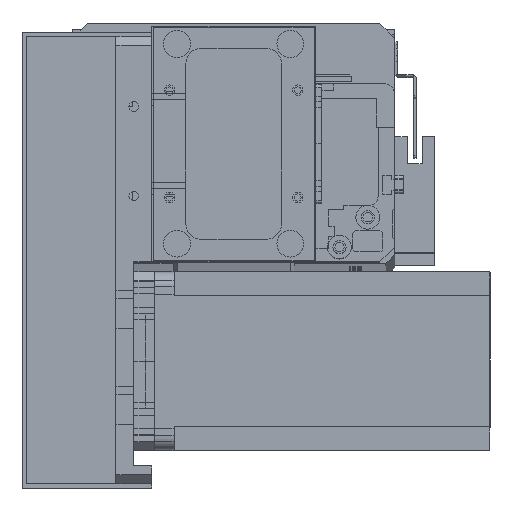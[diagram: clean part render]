
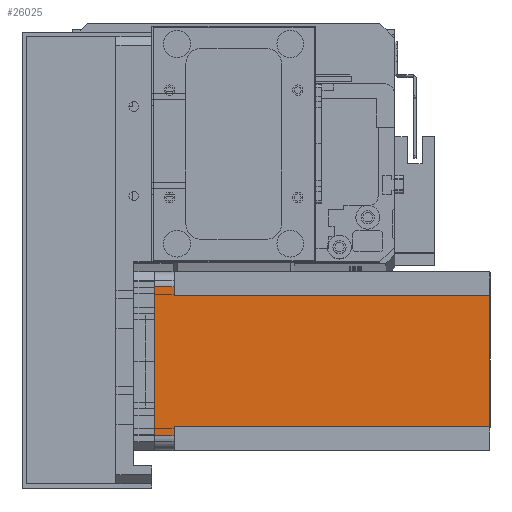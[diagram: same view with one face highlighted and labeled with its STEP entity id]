
A CAD part, top view. The second image highlights one B-rep face of the part: STEP entity #26025.
In plain terms, the highlighted planar face has unit normal (0, 0, 1) as drawn and (0, 1, 0) by its records, which use the part's own axes.
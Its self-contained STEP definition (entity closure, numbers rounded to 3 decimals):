
#463 = LINE ( 'NONE', #33951, #32881 ) ;
#1428 = CARTESIAN_POINT ( 'NONE',  ( 52., 60., -112.5 ) ) ;
#2560 = DIRECTION ( 'NONE',  ( 0., 0., 1. ) ) ;
#2877 = VECTOR ( 'NONE', #5716, 1000. ) ;
#3066 = VERTEX_POINT ( 'NONE', #6250 ) ;
#3349 = DIRECTION ( 'NONE',  ( -1., 0., 0. ) ) ;
#3710 = CARTESIAN_POINT ( 'NONE',  ( 5., 60., -6.5 ) ) ;
#3999 = EDGE_LOOP ( 'NONE', ( #27438, #27697, #8176, #27181, #20939, #6668, #8653, #16563 ) ) ;
#4856 = CARTESIAN_POINT ( 'NONE',  ( 5., 60., 0. ) ) ;
#5147 = LINE ( 'NONE', #10836, #12141 ) ;
#5252 = LINE ( 'NONE', #14703, #25340 ) ;
#5697 = DIRECTION ( 'NONE',  ( 0., 0., -1. ) ) ;
#5716 = DIRECTION ( 'NONE',  ( -1., 0., 0. ) ) ;
#5776 = AXIS2_PLACEMENT_3D ( 'NONE', #7016, #27892, #32819 ) ;
#6250 = CARTESIAN_POINT ( 'NONE',  ( 55., 60., -6.5 ) ) ;
#6503 = FACE_OUTER_BOUND ( 'NONE', #3999, .T. ) ;
#6668 = ORIENTED_EDGE ( 'NONE', *, *, #18622, .F. ) ;
#7016 = CARTESIAN_POINT ( 'NONE',  ( 0., 60., -112.5 ) ) ;
#8176 = ORIENTED_EDGE ( 'NONE', *, *, #12555, .F. ) ;
#8653 = ORIENTED_EDGE ( 'NONE', *, *, #22858, .T. ) ;
#8908 = VERTEX_POINT ( 'NONE', #3710 ) ;
#9446 = LINE ( 'NONE', #25682, #15586 ) ;
#10350 = EDGE_CURVE ( 'NONE', #27957, #31415, #23805, .T. ) ;
#10578 = LINE ( 'NONE', #33589, #15080 ) ;
#10836 = CARTESIAN_POINT ( 'NONE',  ( 8., 60., -112.5 ) ) ;
#11168 = CARTESIAN_POINT ( 'NONE',  ( 0., 60., -112.5 ) ) ;
#12141 = VECTOR ( 'NONE', #5697, 1000. ) ;
#12555 = EDGE_CURVE ( 'NONE', #27705, #3066, #33019, .T. ) ;
#12899 = CARTESIAN_POINT ( 'NONE',  ( 8., 60., -6.5 ) ) ;
#13597 = CARTESIAN_POINT ( 'NONE',  ( 0., 60., 0. ) ) ;
#14703 = CARTESIAN_POINT ( 'NONE',  ( 55., 60., -112.5 ) ) ;
#15080 = VECTOR ( 'NONE', #20522, 1000. ) ;
#15374 = CARTESIAN_POINT ( 'NONE',  ( 52., 60., -6.5 ) ) ;
#15586 = VECTOR ( 'NONE', #28323, 1000. ) ;
#16182 = EDGE_CURVE ( 'NONE', #19891, #18859, #25406, .T. ) ;
#16563 = ORIENTED_EDGE ( 'NONE', *, *, #21779, .T. ) ;
#17121 = EDGE_CURVE ( 'NONE', #27957, #3066, #5252, .T. ) ;
#17239 = EDGE_CURVE ( 'NONE', #19891, #27705, #10578, .T. ) ;
#17352 = DIRECTION ( 'NONE',  ( 0., 0., -1. ) ) ;
#18425 = VECTOR ( 'NONE', #3349, 1000. ) ;
#18622 = EDGE_CURVE ( 'NONE', #24940, #18859, #5147, .T. ) ;
#18859 = VERTEX_POINT ( 'NONE', #27648 ) ;
#19081 = VECTOR ( 'NONE', #23173, 1000. ) ;
#19891 = VERTEX_POINT ( 'NONE', #1428 ) ;
#20522 = DIRECTION ( 'NONE',  ( 0., 0., 1. ) ) ;
#20939 = ORIENTED_EDGE ( 'NONE', *, *, #16182, .T. ) ;
#21779 = EDGE_CURVE ( 'NONE', #8908, #31415, #463, .T. ) ;
#22695 = PLANE ( 'NONE',  #5776 ) ;
#22858 = EDGE_CURVE ( 'NONE', #24940, #8908, #9446, .T. ) ;
#23173 = DIRECTION ( 'NONE',  ( 1., 0., 0. ) ) ;
#23363 = CARTESIAN_POINT ( 'NONE',  ( 55., 60., 0. ) ) ;
#23805 = LINE ( 'NONE', #13597, #2877 ) ;
#24940 = VERTEX_POINT ( 'NONE', #12899 ) ;
#25340 = VECTOR ( 'NONE', #17352, 1000. ) ;
#25406 = LINE ( 'NONE', #11168, #18425 ) ;
#25682 = CARTESIAN_POINT ( 'NONE',  ( 8., 60., -6.5 ) ) ;
#26025 = ADVANCED_FACE ( 'NONE', ( #6503 ), #22695, .T. ) ;
#27181 = ORIENTED_EDGE ( 'NONE', *, *, #17239, .F. ) ;
#27438 = ORIENTED_EDGE ( 'NONE', *, *, #10350, .F. ) ;
#27648 = CARTESIAN_POINT ( 'NONE',  ( 8., 60., -112.5 ) ) ;
#27697 = ORIENTED_EDGE ( 'NONE', *, *, #17121, .T. ) ;
#27705 = VERTEX_POINT ( 'NONE', #32753 ) ;
#27892 = DIRECTION ( 'NONE',  ( 0., 1., 0. ) ) ;
#27957 = VERTEX_POINT ( 'NONE', #23363 ) ;
#28323 = DIRECTION ( 'NONE',  ( -1., 0., 0. ) ) ;
#31415 = VERTEX_POINT ( 'NONE', #4856 ) ;
#32753 = CARTESIAN_POINT ( 'NONE',  ( 52., 60., -6.5 ) ) ;
#32819 = DIRECTION ( 'NONE',  ( 0., 0., 1. ) ) ;
#32881 = VECTOR ( 'NONE', #2560, 1000. ) ;
#33019 = LINE ( 'NONE', #15374, #19081 ) ;
#33589 = CARTESIAN_POINT ( 'NONE',  ( 52., 60., -112.5 ) ) ;
#33951 = CARTESIAN_POINT ( 'NONE',  ( 5., 60., -112.5 ) ) ;
